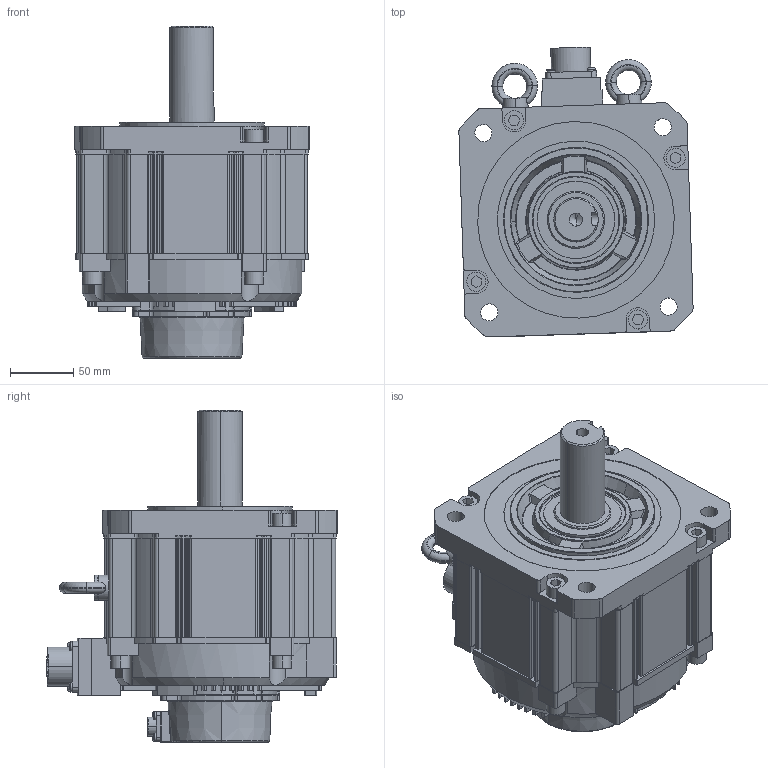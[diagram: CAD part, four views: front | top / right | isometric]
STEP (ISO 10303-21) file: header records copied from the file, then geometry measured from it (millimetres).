
FILE_DESCRIPTION (( 'STEP AP203' ), '1' );
FILE_NAME ('180A-18615.STEP', '2023-11-23T12:20:03', ( '' ), ( '' ), 'SwSTEP 2.0', 'SolidWorks 2018', '' );
FILE_SCHEMA (( 'CONFIG_CONTROL_DESIGN' ));
Length unit declared in the file: millimetre
Products named in the file (11): 蚐猾; 裂遠; CMV1-10; 砎蝶菜; 橈勤硉晤鎢ん誘欶  S13E.10-01; ヶ裔; 18.6,28.4N.M蛌粣; 180A-18615; 18615-diyajike; 綴裔; 22-22
Assembly tree (11 placements, depth 2):
  180A-18615
    綴裔
    ヶ裔
    蚐猾
    18.6,28.4N.M蛌粣
    22-22
    CMV1-10
    橈勤硉晤鎢ん誘欶  S13E.10-01
    18615-diyajike
    砎蝶菜
    裂遠  x2
Bounding box: 184.64 x 228.75 x 261.7 mm (x, y, z)
Volume: 1663290.2 mm3; surface area: 479904.1 mm2
Topology: 11 solids, 11 shells, 1671 faces, 4479 edges, 2899 vertices
Faces by surface type: plane 834, cylinder 664, torus 91, cone 52, sphere 16, bspline 14
Entity records: 54003 total; most frequent: CARTESIAN_POINT 10678, DIRECTION 9176, ORIENTED_EDGE 8706, EDGE_CURVE 4353, AXIS2_PLACEMENT_3D 3327, VERTEX_POINT 2837, VECTOR 2522, LINE 2522
